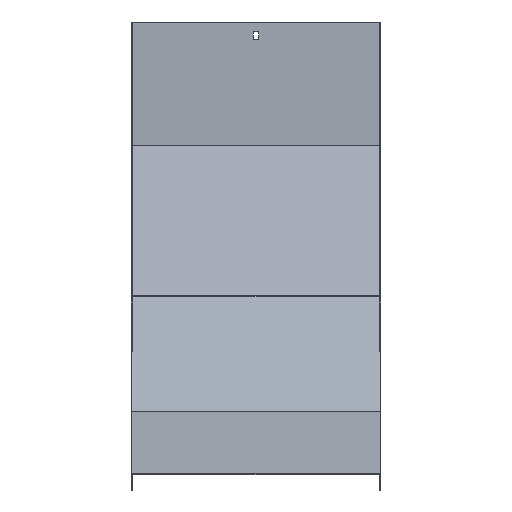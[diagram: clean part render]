
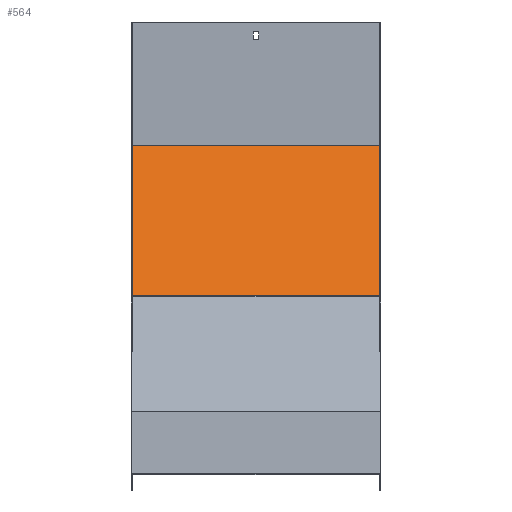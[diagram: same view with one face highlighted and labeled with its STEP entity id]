
A CAD part, top view. The second image highlights one B-rep face of the part: STEP entity #564.
In plain terms, the highlighted planar face has unit normal (0, 0.383, 0.924).
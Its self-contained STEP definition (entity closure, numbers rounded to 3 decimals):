
#9 = VERTEX_POINT ( 'NONE', #626 ) ;
#22 = VECTOR ( 'NONE', #858, 1000. ) ;
#110 = EDGE_CURVE ( 'NONE', #982, #359, #738, .T. ) ;
#221 = EDGE_LOOP ( 'NONE', ( #366, #1010, #1060, #712 ) ) ;
#237 = FACE_OUTER_BOUND ( 'NONE', #221, .T. ) ;
#247 = VECTOR ( 'NONE', #1083, 1000. ) ;
#289 = VERTEX_POINT ( 'NONE', #1007 ) ;
#295 = LINE ( 'NONE', #636, #686 ) ;
#309 = LINE ( 'NONE', #653, #652 ) ;
#351 = CARTESIAN_POINT ( 'NONE',  ( -151.5, 216.541, -473.877 ) ) ;
#359 = VERTEX_POINT ( 'NONE', #351 ) ;
#366 = ORIENTED_EDGE ( 'NONE', *, *, #579, .F. ) ;
#415 = CARTESIAN_POINT ( 'NONE',  ( 151.5, 216.541, -473.877 ) ) ;
#471 = AXIS2_PLACEMENT_3D ( 'NONE', #415, #1106, #669 ) ;
#563 = CARTESIAN_POINT ( 'NONE',  ( 151.5, 216.541, -473.877 ) ) ;
#564 = ADVANCED_FACE ( 'NONE', ( #237 ), #581, .T. ) ;
#573 = CARTESIAN_POINT ( 'NONE',  ( 151.5, 216.541, -473.877 ) ) ;
#579 = EDGE_CURVE ( 'NONE', #359, #289, #1019, .T. ) ;
#581 = PLANE ( 'NONE',  #471 ) ;
#626 = CARTESIAN_POINT ( 'NONE',  ( 151.5, 400.116, -549.916 ) ) ;
#636 = CARTESIAN_POINT ( 'NONE',  ( 151.5, 216.541, -473.877 ) ) ;
#652 = VECTOR ( 'NONE', #822, 1000. ) ;
#653 = CARTESIAN_POINT ( 'NONE',  ( 151.5, 400.116, -549.916 ) ) ;
#669 = DIRECTION ( 'NONE',  ( 0., -0.924, 0.383 ) ) ;
#686 = VECTOR ( 'NONE', #1088, 1000. ) ;
#712 = ORIENTED_EDGE ( 'NONE', *, *, #861, .T. ) ;
#738 = LINE ( 'NONE', #563, #247 ) ;
#822 = DIRECTION ( 'NONE',  ( -1., 0., 0. ) ) ;
#858 = DIRECTION ( 'NONE',  ( 0., 0.924, -0.383 ) ) ;
#861 = EDGE_CURVE ( 'NONE', #9, #289, #309, .T. ) ;
#982 = VERTEX_POINT ( 'NONE', #573 ) ;
#1007 = CARTESIAN_POINT ( 'NONE',  ( -151.5, 400.116, -549.916 ) ) ;
#1010 = ORIENTED_EDGE ( 'NONE', *, *, #110, .F. ) ;
#1019 = LINE ( 'NONE', #1033, #22 ) ;
#1033 = CARTESIAN_POINT ( 'NONE',  ( -151.5, 216.541, -473.877 ) ) ;
#1060 = ORIENTED_EDGE ( 'NONE', *, *, #1092, .T. ) ;
#1083 = DIRECTION ( 'NONE',  ( -1., 0., 0. ) ) ;
#1088 = DIRECTION ( 'NONE',  ( 0., 0.924, -0.383 ) ) ;
#1092 = EDGE_CURVE ( 'NONE', #982, #9, #295, .T. ) ;
#1106 = DIRECTION ( 'NONE',  ( 0., 0.383, 0.924 ) ) ;
